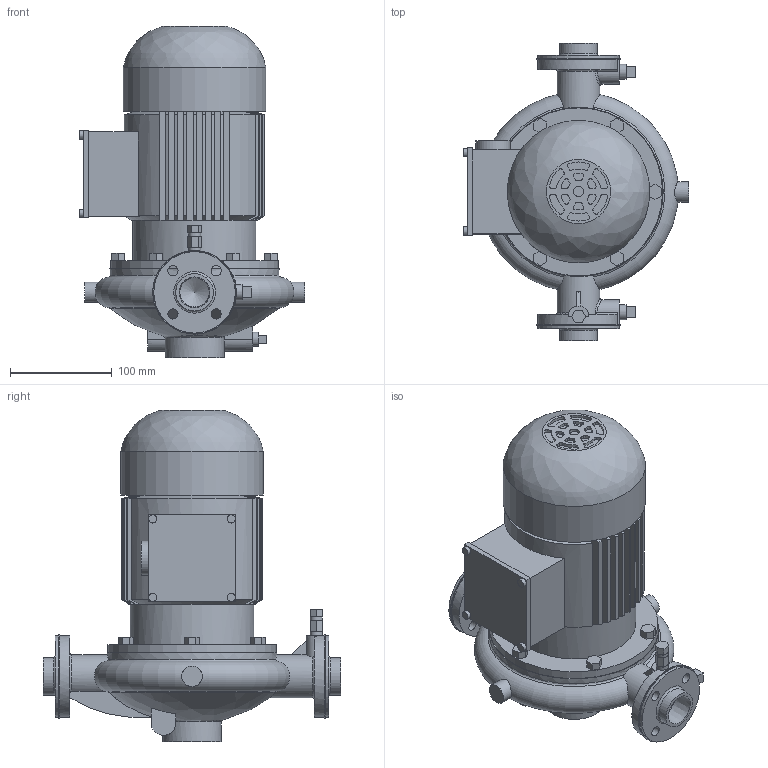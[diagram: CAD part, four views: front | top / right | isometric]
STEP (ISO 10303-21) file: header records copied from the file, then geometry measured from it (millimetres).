
FILE_DESCRIPTION(/* description */ ('荏原製作所'),/* implementation_level */ '2;1');
FILE_NAME(/* name */ 'C:\Users\Fujimoto-s\OneDrive\Inventor\WorkSpace\\X2\305D306E4ED6\X0\\ホームページ用\\X2\30C030A630F330ED30FC30C97D206750\X0\\ポンプ類\25LPS6.15E\25LPS6.15E.stp',/* time_stamp */ '2024-08-09T13:46:02+09:00',/* author */ ('Fujimoto-s'),/* organization */ (''),/* preprocessor_version */ 'ST-DEVELOPER v15.2',/* originating_system */ 'Autodesk Inventor 2014',/* authorisation */ '200V 3P-0.15KW');
FILE_SCHEMA (('AUTOMOTIVE_DESIGN { 1 0 10303 214 3 1 1 }'));
Length unit declared in the file: millimetre
Products named in the file (1): 25LPS6.15E
Bounding box: 221 x 292 x 325 mm (x, y, z)
Volume: 4904277.8 mm3; surface area: 400256.6 mm2
Topology: 2 solids, 2 shells, 536 faces, 1381 edges, 890 vertices
Faces by surface type: plane 316, cylinder 149, cone 54, torus 11, bspline 4, sphere 2
Full cylindrical faces by diameter (mm): 1.183 x1, 8 x4, 10 x9, 12 x2, 13.5 x1, 15 x2, 20 x2, 29 x2, 33.5 x1, 36.8 x2, 42 x1, 50 x1, 58 x1, 80 x2, 82 x2, 121 x1, 140 x1, 165 x1, 166 x1
Entity records: 16687 total; most frequent: CARTESIAN_POINT 3645, DIRECTION 2667, ORIENTED_EDGE 2642, EDGE_CURVE 1315, AXIS2_PLACEMENT_3D 968, VERTEX_POINT 869, LINE 731, VECTOR 731
